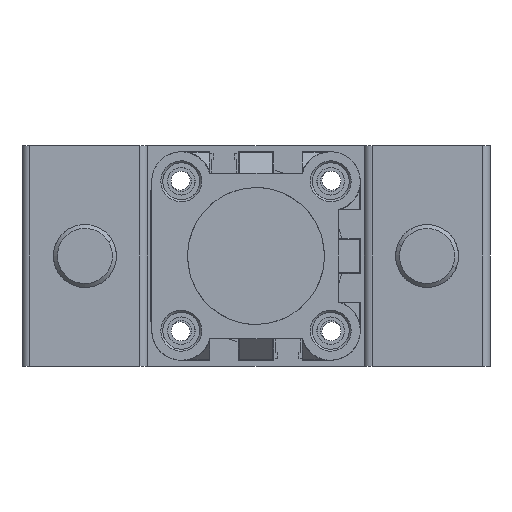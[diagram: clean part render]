
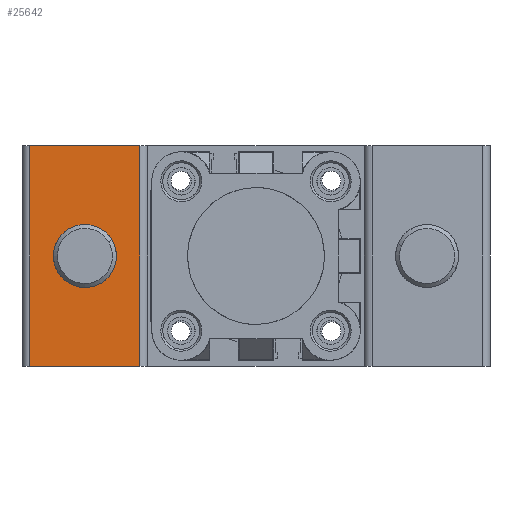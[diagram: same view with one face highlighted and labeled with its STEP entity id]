
A CAD part, front view. The second image highlights one B-rep face of the part: STEP entity #25642.
In plain terms, the highlighted planar face has unit normal (0, -1, 0).
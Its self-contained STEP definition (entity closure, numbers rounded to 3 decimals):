
#116 = ORIENTED_EDGE ( 'NONE', *, *, #30279, .T. ) ;
#1377 = EDGE_LOOP ( 'NONE', ( #25078, #25555 ) ) ;
#3555 = CARTESIAN_POINT ( 'NONE',  ( 30., -134., 56. ) ) ;
#4321 = CARTESIAN_POINT ( 'NONE',  ( 2., -134., 56. ) ) ;
#4974 = VECTOR ( 'NONE', #15941, 1000. ) ;
#5875 = ORIENTED_EDGE ( 'NONE', *, *, #28573, .F. ) ;
#6631 = AXIS2_PLACEMENT_3D ( 'NONE', #22378, #7573, #24892 ) ;
#6781 = CARTESIAN_POINT ( 'NONE',  ( 30., -134., 0. ) ) ;
#7573 = DIRECTION ( 'NONE',  ( 0., -1., 0. ) ) ;
#7600 = PLANE ( 'NONE',  #9501 ) ;
#7798 = EDGE_CURVE ( 'NONE', #23034, #12828, #26066, .T. ) ;
#7951 = LINE ( 'NONE', #14310, #20335 ) ;
#7977 = EDGE_CURVE ( 'NONE', #9199, #26543, #22158, .T. ) ;
#9034 = CARTESIAN_POINT ( 'NONE',  ( 30., -134., 0. ) ) ;
#9199 = VERTEX_POINT ( 'NONE', #23399 ) ;
#9501 = AXIS2_PLACEMENT_3D ( 'NONE', #24918, #27404, #12567 ) ;
#9824 = FACE_OUTER_BOUND ( 'NONE', #10960, .T. ) ;
#10960 = EDGE_LOOP ( 'NONE', ( #21881, #5875, #20783, #116 ) ) ;
#12064 = CARTESIAN_POINT ( 'NONE',  ( 16., -134., 28. ) ) ;
#12100 = VECTOR ( 'NONE', #23784, 1000. ) ;
#12567 = DIRECTION ( 'NONE',  ( 1., 0., 0. ) ) ;
#12828 = VERTEX_POINT ( 'NONE', #4321 ) ;
#14310 = CARTESIAN_POINT ( 'NONE',  ( 2., -134., 56. ) ) ;
#14574 = DIRECTION ( 'NONE',  ( 1., 0., 0. ) ) ;
#14852 = FACE_BOUND ( 'NONE', #1377, .T. ) ;
#15941 = DIRECTION ( 'NONE',  ( 0., 0., -1. ) ) ;
#16335 = EDGE_CURVE ( 'NONE', #26543, #9199, #22227, .T. ) ;
#16774 = DIRECTION ( 'NONE',  ( 0., 0., -1. ) ) ;
#18568 = VERTEX_POINT ( 'NONE', #20922 ) ;
#18825 = VECTOR ( 'NONE', #21692, 1000. ) ;
#19631 = CARTESIAN_POINT ( 'NONE',  ( 16., -134., 36. ) ) ;
#20335 = VECTOR ( 'NONE', #16774, 1000. ) ;
#20783 = ORIENTED_EDGE ( 'NONE', *, *, #7798, .T. ) ;
#20922 = CARTESIAN_POINT ( 'NONE',  ( 2., -134., 0. ) ) ;
#21288 = CARTESIAN_POINT ( 'NONE',  ( 30., -134., 56. ) ) ;
#21692 = DIRECTION ( 'NONE',  ( -1., 0., 0. ) ) ;
#21881 = ORIENTED_EDGE ( 'NONE', *, *, #29686, .F. ) ;
#22158 = CIRCLE ( 'NONE', #25833, 8. ) ;
#22227 = CIRCLE ( 'NONE', #6631, 8. ) ;
#22275 = CARTESIAN_POINT ( 'NONE',  ( 30., -134., 56. ) ) ;
#22378 = CARTESIAN_POINT ( 'NONE',  ( 16., -134., 28. ) ) ;
#23034 = VERTEX_POINT ( 'NONE', #22275 ) ;
#23399 = CARTESIAN_POINT ( 'NONE',  ( 16., -134., 20. ) ) ;
#23784 = DIRECTION ( 'NONE',  ( -1., 0., 0. ) ) ;
#23858 = VERTEX_POINT ( 'NONE', #9034 ) ;
#24696 = LINE ( 'NONE', #3555, #4974 ) ;
#24892 = DIRECTION ( 'NONE',  ( 1., 0., 0. ) ) ;
#24918 = CARTESIAN_POINT ( 'NONE',  ( 30., -134., 56. ) ) ;
#25078 = ORIENTED_EDGE ( 'NONE', *, *, #16335, .F. ) ;
#25417 = LINE ( 'NONE', #6781, #18825 ) ;
#25555 = ORIENTED_EDGE ( 'NONE', *, *, #7977, .F. ) ;
#25642 = ADVANCED_FACE ( 'NONE', ( #14852, #9824 ), #7600, .T. ) ;
#25833 = AXIS2_PLACEMENT_3D ( 'NONE', #12064, #29383, #14574 ) ;
#26066 = LINE ( 'NONE', #21288, #12100 ) ;
#26543 = VERTEX_POINT ( 'NONE', #19631 ) ;
#27404 = DIRECTION ( 'NONE',  ( 0., -1., 0. ) ) ;
#28573 = EDGE_CURVE ( 'NONE', #23034, #23858, #24696, .T. ) ;
#29383 = DIRECTION ( 'NONE',  ( 0., -1., 0. ) ) ;
#29686 = EDGE_CURVE ( 'NONE', #23858, #18568, #25417, .T. ) ;
#30279 = EDGE_CURVE ( 'NONE', #12828, #18568, #7951, .T. ) ;
